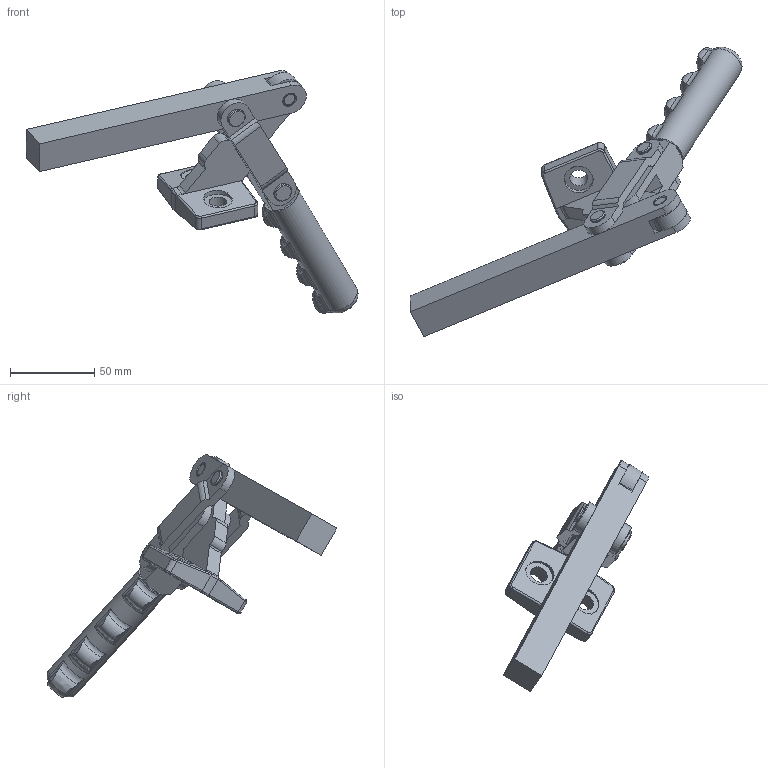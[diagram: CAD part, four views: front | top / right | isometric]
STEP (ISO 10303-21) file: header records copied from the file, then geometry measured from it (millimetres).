
FILE_DESCRIPTION(/* description */ ('STEP AP203'),/* implementation_level */ '2;1');
FILE_NAME(/* name */ 'D:\Vault_2016\Projekty\NASZ KATALOG\CLAMPTEK\STRONA\Heavy duty weldables\CH-75027\CH-75027_ZAMKNIETY.stp',/* time_stamp */ '2019-01-21T11:19:26+01:00',/* author */ ('CADENGINEERING4'),/* organization */ ('Microsoft'),/* preprocessor_version */ 'ST-DEVELOPER v17.2',/* originating_system */ 'Autodesk Inventor 2019',/* authorisation */ '');
FILE_SCHEMA (('AUTOMOTIVE_DESIGN { 1 0 10303 214 3 1 1 }'));
Length unit declared in the file: millimetre
Products named in the file (8): CH-75027_ZAMKNIETY; Ñ¹°Ñ; ÊÖ°Ñ; Á¬¸Ë; ÊµÃ­¶¤; ÊÖ°ÑÌ×; dizuo; Ïú
Assembly tree (10 placements, depth 2):
  CH-75027_ZAMKNIETY
    Ñ¹°Ñ
    ÊÖ°Ñ
    Á¬¸Ë  x2
    Ïú  x2
    ÊµÃ­¶¤  x2
    ÊÖ°ÑÌ×
    dizuo
Bounding box: 197.21 x 172.26 x 144.27 mm (x, y, z)
Volume: 167905.8 mm3; surface area: 63982.8 mm2
Topology: 10 solids, 10 shells, 1219 faces, 3579 edges, 2391 vertices
Faces by surface type: plane 800, cylinder 340, torus 46, cone 22, bspline 11
Full cylindrical faces by diameter (mm): 8 x16, 10.6 x2, 11 x2, 17 x2, 19 x1, 22 x1
Entity records: 24645 total; most frequent: CARTESIAN_POINT 5533, ORIENTED_EDGE 4076, DIRECTION 4013, EDGE_CURVE 2038, AXIS2_PLACEMENT_3D 1468, VERTEX_POINT 1361, LINE 1077, VECTOR 1077
